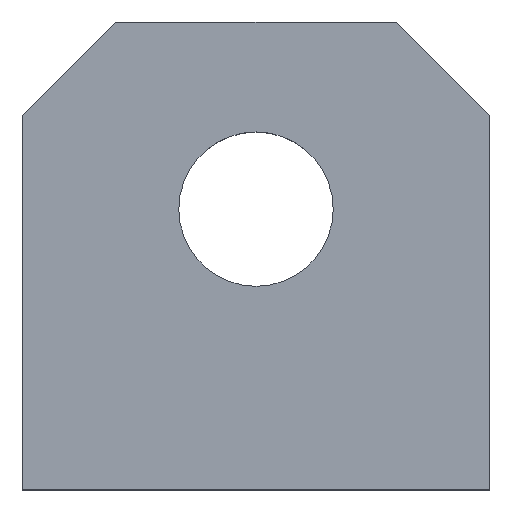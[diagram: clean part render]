
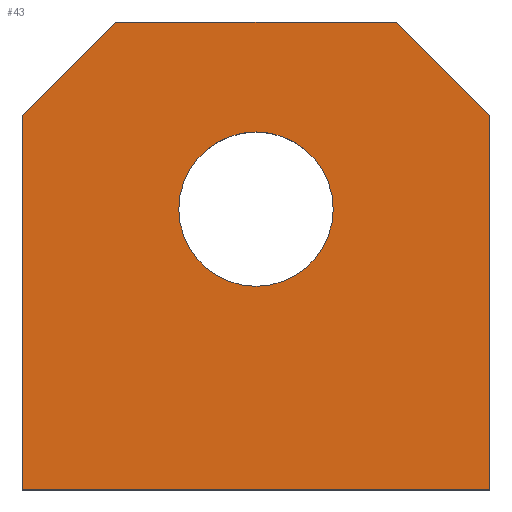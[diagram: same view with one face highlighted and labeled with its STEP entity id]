
A CAD part, top view. The second image highlights one B-rep face of the part: STEP entity #43.
In plain terms, the highlighted planar face has unit normal (0, 0, 1).
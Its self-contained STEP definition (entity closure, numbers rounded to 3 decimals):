
#1 = CARTESIAN_POINT ( 'NONE',  ( 0., 50., 10. ) ) ;
#5 = DIRECTION ( 'NONE',  ( 0., 1., 0. ) ) ;
#8 = LINE ( 'NONE', #1, #90 ) ;
#12 = FACE_BOUND ( 'NONE', #19, .T. ) ;
#13 = VERTEX_POINT ( 'NONE', #289 ) ;
#16 = CARTESIAN_POINT ( 'NONE',  ( 16.75, 30., 10. ) ) ;
#19 = EDGE_LOOP ( 'NONE', ( #298, #336 ) ) ;
#20 = DIRECTION ( 'NONE',  ( 0., 0., -1. ) ) ;
#28 = CARTESIAN_POINT ( 'NONE',  ( 40., 50., 10. ) ) ;
#34 = VECTOR ( 'NONE', #5, 1000. ) ;
#36 = ORIENTED_EDGE ( 'NONE', *, *, #311, .T. ) ;
#43 = ADVANCED_FACE ( 'NONE', ( #287, #12 ), #312, .F. ) ;
#46 = VERTEX_POINT ( 'NONE', #237 ) ;
#51 = AXIS2_PLACEMENT_3D ( 'NONE', #56, #249, #86 ) ;
#56 = CARTESIAN_POINT ( 'NONE',  ( 25., 30., 10. ) ) ;
#58 = VERTEX_POINT ( 'NONE', #290 ) ;
#61 = CIRCLE ( 'NONE', #51, 8.25 ) ;
#68 = VERTEX_POINT ( 'NONE', #125 ) ;
#72 = AXIS2_PLACEMENT_3D ( 'NONE', #158, #20, #206 ) ;
#78 = CARTESIAN_POINT ( 'NONE',  ( 0., 0., 10. ) ) ;
#86 = DIRECTION ( 'NONE',  ( 1., 0., 0. ) ) ;
#90 = VECTOR ( 'NONE', #213, 1000. ) ;
#107 = DIRECTION ( 'NONE',  ( 0., 0., 1. ) ) ;
#109 = VERTEX_POINT ( 'NONE', #16 ) ;
#113 = DIRECTION ( 'NONE',  ( -0.707, -0.707, 0. ) ) ;
#118 = VERTEX_POINT ( 'NONE', #78 ) ;
#121 = VERTEX_POINT ( 'NONE', #241 ) ;
#125 = CARTESIAN_POINT ( 'NONE',  ( 50., 0., 10. ) ) ;
#127 = LINE ( 'NONE', #166, #134 ) ;
#134 = VECTOR ( 'NONE', #191, 1000. ) ;
#158 = CARTESIAN_POINT ( 'NONE',  ( 0., 0., 10. ) ) ;
#162 = CARTESIAN_POINT ( 'NONE',  ( 33.25, 30., 10. ) ) ;
#165 = CARTESIAN_POINT ( 'NONE',  ( 0., 0., 10. ) ) ;
#166 = CARTESIAN_POINT ( 'NONE',  ( 0., 0., 10. ) ) ;
#167 = DIRECTION ( 'NONE',  ( -0.707, 0.707, 0. ) ) ;
#173 = EDGE_CURVE ( 'NONE', #109, #205, #301, .T. ) ;
#175 = ORIENTED_EDGE ( 'NONE', *, *, #328, .T. ) ;
#179 = EDGE_LOOP ( 'NONE', ( #327, #219, #248, #235, #36, #175 ) ) ;
#191 = DIRECTION ( 'NONE',  ( 1., 0., 0. ) ) ;
#196 = VECTOR ( 'NONE', #218, 1000. ) ;
#199 = LINE ( 'NONE', #165, #196 ) ;
#205 = VERTEX_POINT ( 'NONE', #162 ) ;
#206 = DIRECTION ( 'NONE',  ( -1., 0., 0. ) ) ;
#213 = DIRECTION ( 'NONE',  ( -1., 0., 0. ) ) ;
#218 = DIRECTION ( 'NONE',  ( 0., -1., 0. ) ) ;
#219 = ORIENTED_EDGE ( 'NONE', *, *, #261, .T. ) ;
#221 = CARTESIAN_POINT ( 'NONE',  ( 50., 0., 10. ) ) ;
#233 = LINE ( 'NONE', #221, #34 ) ;
#235 = ORIENTED_EDGE ( 'NONE', *, *, #299, .T. ) ;
#237 = CARTESIAN_POINT ( 'NONE',  ( 50., 40., 10. ) ) ;
#241 = CARTESIAN_POINT ( 'NONE',  ( 40., 50., 10. ) ) ;
#248 = ORIENTED_EDGE ( 'NONE', *, *, #281, .T. ) ;
#249 = DIRECTION ( 'NONE',  ( 0., 0., 1. ) ) ;
#250 = EDGE_CURVE ( 'NONE', #121, #58, #8, .T. ) ;
#254 = LINE ( 'NONE', #28, #326 ) ;
#261 = EDGE_CURVE ( 'NONE', #58, #13, #282, .T. ) ;
#267 = VECTOR ( 'NONE', #113, 1000. ) ;
#270 = CARTESIAN_POINT ( 'NONE',  ( 25., 30., 10. ) ) ;
#271 = EDGE_CURVE ( 'NONE', #205, #109, #61, .T. ) ;
#281 = EDGE_CURVE ( 'NONE', #13, #118, #199, .T. ) ;
#282 = LINE ( 'NONE', #297, #267 ) ;
#287 = FACE_OUTER_BOUND ( 'NONE', #179, .T. ) ;
#289 = CARTESIAN_POINT ( 'NONE',  ( 0., 40., 10. ) ) ;
#290 = CARTESIAN_POINT ( 'NONE',  ( 10., 50., 10. ) ) ;
#294 = DIRECTION ( 'NONE',  ( 1., 0., 0. ) ) ;
#297 = CARTESIAN_POINT ( 'NONE',  ( 0., 40., 10. ) ) ;
#298 = ORIENTED_EDGE ( 'NONE', *, *, #173, .F. ) ;
#299 = EDGE_CURVE ( 'NONE', #118, #68, #127, .T. ) ;
#301 = CIRCLE ( 'NONE', #308, 8.25 ) ;
#308 = AXIS2_PLACEMENT_3D ( 'NONE', #270, #107, #294 ) ;
#311 = EDGE_CURVE ( 'NONE', #68, #46, #233, .T. ) ;
#312 = PLANE ( 'NONE',  #72 ) ;
#326 = VECTOR ( 'NONE', #167, 1000. ) ;
#327 = ORIENTED_EDGE ( 'NONE', *, *, #250, .T. ) ;
#328 = EDGE_CURVE ( 'NONE', #46, #121, #254, .T. ) ;
#336 = ORIENTED_EDGE ( 'NONE', *, *, #271, .F. ) ;
